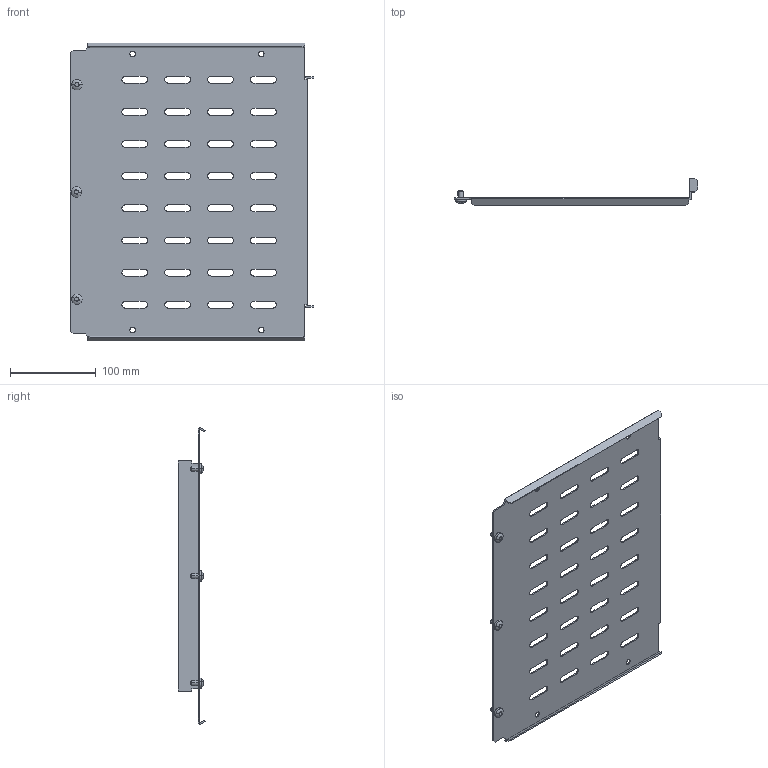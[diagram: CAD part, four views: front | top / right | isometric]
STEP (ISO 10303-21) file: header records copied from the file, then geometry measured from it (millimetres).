
FILE_DESCRIPTION (( 'STEP AP214' ), '1' );
FILE_NAME ('FO-00-SWFÑ-035 Ïåðåãîðîäêà ñåêöèîíèðîâàíèÿ çàäíÿÿ äëÿ âåðòèêàëüíîãî êàáåëüíîãî îòñåêà âûñîòà 350 ìì â øêàô øèðèíîé 600 ìì.STEP', '2025-08-13T12:54:06', ( '' ), ( '' ), 'SwSTEP 2.0', 'SolidWorks 2023', '' );
FILE_SCHEMA (( 'AUTOMOTIVE_DESIGN' ));
Length unit declared in the file: millimetre
Products named in the file (1): FO-00-SWFС-035 Перегородка секционирования задняя для вертикального кабельного отсека высота 350 мм в шкаф шириной 600 мм
Bounding box: 283.5 x 31.66 x 347.2 mm (x, y, z)
Volume: 148585 mm3; surface area: 202338.8 mm2
Topology: 1 solids, 1 shells, 285 faces, 813 edges, 536 vertices
Faces by surface type: cylinder 135, plane 132, torus 6, cone 6, sphere 6
Entity records: 9578 total; most frequent: CARTESIAN_POINT 1836, ORIENTED_EDGE 1626, DIRECTION 1583, EDGE_CURVE 813, VERTEX_POINT 536, AXIS2_PLACEMENT_3D 535, VECTOR 513, LINE 513
